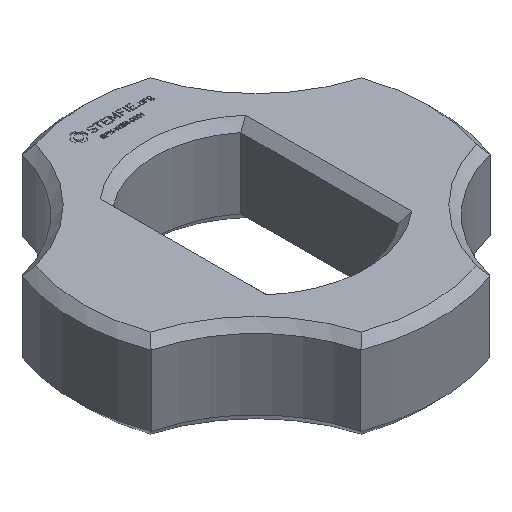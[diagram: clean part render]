
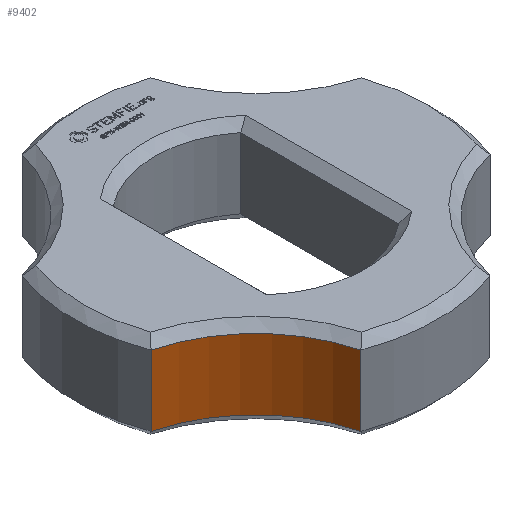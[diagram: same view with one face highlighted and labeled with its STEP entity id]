
A CAD part, isometric view. The second image highlights one B-rep face of the part: STEP entity #9402.
In plain terms, the highlighted cylindrical face has radius 5 mm (diameter 10 mm), a partial arc.
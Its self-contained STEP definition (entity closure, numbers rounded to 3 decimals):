
#18=CYLINDRICAL_SURFACE('',#9780,5.);
#56=CIRCLE('',#9752,5.);
#74=CIRCLE('',#9781,5.);
#1103=FACE_OUTER_BOUND('',#1634,.T.);
#1634=EDGE_LOOP('',(#8506,#8507,#8508,#8509));
#2625=LINE('',#17028,#3603);
#2626=LINE('',#17032,#3604);
#3603=VECTOR('',#11455,10.);
#3604=VECTOR('',#11460,10.);
#4488=VERTEX_POINT('',#16948);
#4489=VERTEX_POINT('',#16953);
#4505=VERTEX_POINT('',#17027);
#4506=VERTEX_POINT('',#17031);
#5820=EDGE_CURVE('',#4488,#4489,#56,.T.);
#5847=EDGE_CURVE('',#4489,#4505,#2625,.T.);
#5849=EDGE_CURVE('',#4488,#4506,#2626,.T.);
#5850=EDGE_CURVE('',#4505,#4506,#74,.T.);
#8506=ORIENTED_EDGE('',*,*,#5820,.F.);
#8507=ORIENTED_EDGE('',*,*,#5849,.T.);
#8508=ORIENTED_EDGE('',*,*,#5850,.F.);
#8509=ORIENTED_EDGE('',*,*,#5847,.F.);
#9402=ADVANCED_FACE('',(#1103),#18,.F.);
#9752=AXIS2_PLACEMENT_3D('',#16954,#11398,#11399);
#9780=AXIS2_PLACEMENT_3D('',#17030,#11458,#11459);
#9781=AXIS2_PLACEMENT_3D('',#17033,#11461,#11462);
#11398=DIRECTION('center_axis',(0.,0.,1.));
#11399=DIRECTION('ref_axis',(1.,0.,0.));
#11455=DIRECTION('',(0.,0.,1.));
#11458=DIRECTION('center_axis',(0.,0.,1.));
#11459=DIRECTION('ref_axis',(1.,0.,0.));
#11460=DIRECTION('',(0.,0.,1.));
#11461=DIRECTION('center_axis',(0.,0.,-1.));
#11462=DIRECTION('ref_axis',(1.,0.,0.));
#16948=CARTESIAN_POINT('',(-2.225,-5.841,0.4));
#16953=CARTESIAN_POINT('',(-5.841,-2.225,0.4));
#16954=CARTESIAN_POINT('Origin',(-7.071,-7.071,0.4));
#17027=CARTESIAN_POINT('',(-5.841,-2.225,2.825));
#17028=CARTESIAN_POINT('',(-5.841,-2.225,0.));
#17030=CARTESIAN_POINT('Origin',(-7.071,-7.071,0.));
#17031=CARTESIAN_POINT('',(-2.225,-5.841,2.825));
#17032=CARTESIAN_POINT('',(-2.225,-5.841,0.));
#17033=CARTESIAN_POINT('Origin',(-7.071,-7.071,2.825));
